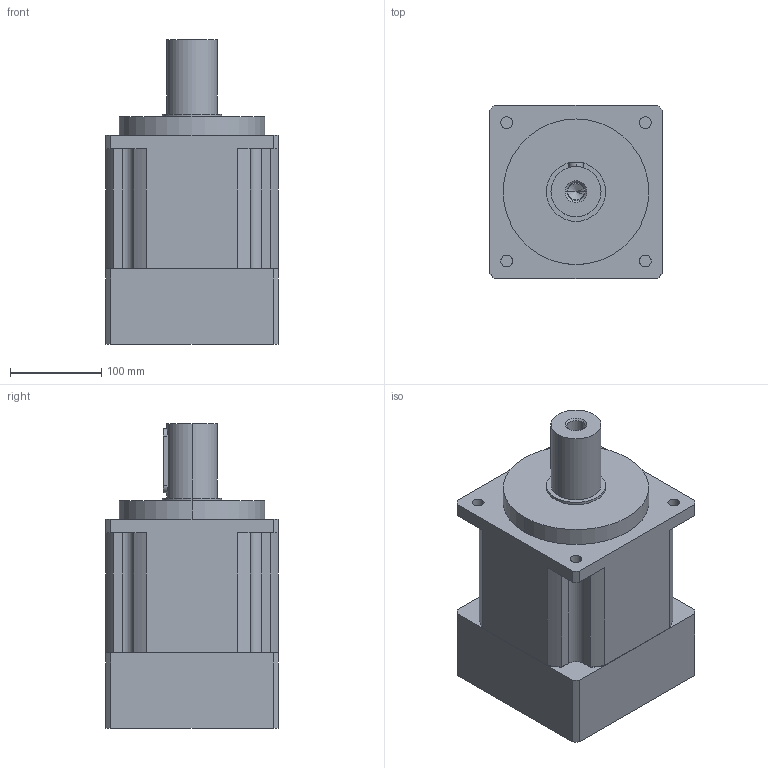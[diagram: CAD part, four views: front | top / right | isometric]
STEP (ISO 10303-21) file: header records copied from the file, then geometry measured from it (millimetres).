
FILE_DESCRIPTION (( 'STEP AP203' ), '1' );
FILE_NAME ('IB180L1-i-P2-S2-42-113-114.3-200-M12.STEP', '2016-01-04T12:37:15', ( 'User' ), ( 'china' ), 'SwSTEP 2.0', 'SolidWorks 2014', '' );
FILE_SCHEMA (( 'CONFIG_CONTROL_DESIGN' ));
Length unit declared in the file: millimetre
Products named in the file (1): IB180L1-i-P2-S2-42-113-114.3-200-M12
Bounding box: 190 x 190 x 335 mm (x, y, z)
Volume: 8092996.5 mm3; surface area: 295977.4 mm2
Topology: 1 solids, 1 shells, 133 faces, 321 edges, 197 vertices
Faces by surface type: cylinder 73, plane 36, cone 12, torus 12
Entity records: 4044 total; most frequent: CARTESIAN_POINT 813, DIRECTION 701, ORIENTED_EDGE 622, EDGE_CURVE 311, AXIS2_PLACEMENT_3D 275, VERTEX_POINT 197, EDGE_LOOP 158, VECTOR 151
